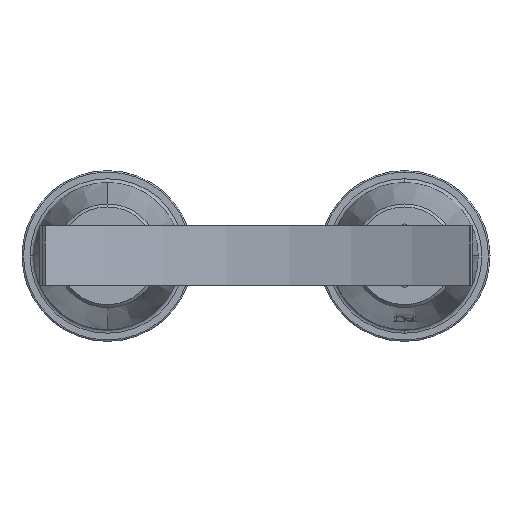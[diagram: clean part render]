
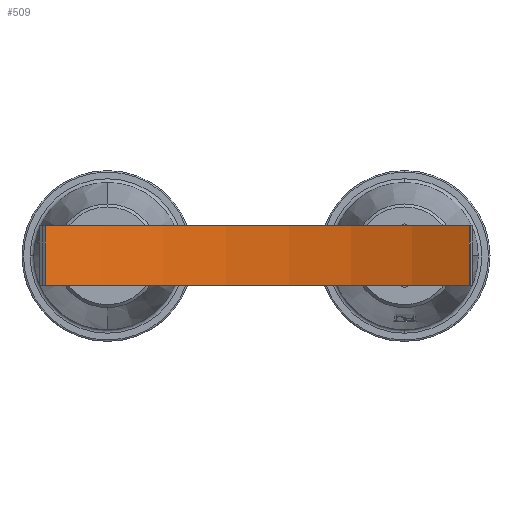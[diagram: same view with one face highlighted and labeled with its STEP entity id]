
A CAD part, top view. The second image highlights one B-rep face of the part: STEP entity #509.
In plain terms, the highlighted cylindrical face has radius 606 mm (diameter 1212 mm), a partial arc.
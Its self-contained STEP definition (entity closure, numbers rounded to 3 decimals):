
#509=ADVANCED_FACE('',(#1077),#1078,.F.);
#1077=FACE_OUTER_BOUND('',#1773,.T.);
#1078=CYLINDRICAL_SURFACE('',#1774,606.);
#1773=EDGE_LOOP('',(#2948,#2949,#2950,#2951));
#1774=AXIS2_PLACEMENT_3D('',#2952,#2953,#2954);
#2948=ORIENTED_EDGE('',*,*,#4268,.T.);
#2949=ORIENTED_EDGE('',*,*,#4258,.F.);
#2950=ORIENTED_EDGE('',*,*,#4269,.T.);
#2951=ORIENTED_EDGE('',*,*,#4265,.T.);
#2952=CARTESIAN_POINT('',(183.028,684.868,645.908));
#2953=DIRECTION('',(0.,1.0,0.));
#2954=DIRECTION('',(-1.0,0.,0.));
#4258=EDGE_CURVE('',#5111,#5106,#5113,.T.);
#4265=EDGE_CURVE('',#5123,#5121,#5124,.T.);
#4268=EDGE_CURVE('',#5121,#5106,#5127,.T.);
#4269=EDGE_CURVE('',#5111,#5123,#5128,.T.);
#5106=VERTEX_POINT('',#6817);
#5111=VERTEX_POINT('',#6824);
#5113=LINE('',#6827,#6828);
#5121=VERTEX_POINT('',#6837);
#5123=VERTEX_POINT('',#6840);
#5124=LINE('',#6841,#6842);
#5127=CIRCLE('',#6846,606.);
#5128=CIRCLE('',#6847,606.);
#6817=CARTESIAN_POINT('',(-100.998,764.868,110.59));
#6824=CARTESIAN_POINT('',(-100.998,684.868,110.59));
#6827=CARTESIAN_POINT('',(-100.998,684.868,110.59));
#6828=VECTOR('',#8961,1.);
#6837=CARTESIAN_POINT('',(470.097,764.868,112.216));
#6840=CARTESIAN_POINT('',(470.097,684.868,112.216));
#6841=CARTESIAN_POINT('',(470.097,684.868,112.216));
#6842=VECTOR('',#8970,1.);
#6846=AXIS2_PLACEMENT_3D('',#8972,#8973,#8974);
#6847=AXIS2_PLACEMENT_3D('',#8975,#8976,#8977);
#8961=DIRECTION('',(0.,1.0,0.));
#8970=DIRECTION('',(0.,1.0,0.));
#8972=CARTESIAN_POINT('',(183.028,764.868,645.908));
#8973=DIRECTION('',(0.,1.0,0.));
#8974=DIRECTION('',(-1.0,0.,0.));
#8975=CARTESIAN_POINT('',(183.028,684.868,645.908));
#8976=DIRECTION('',(0.,-1.0,0.));
#8977=DIRECTION('',(-1.0,0.,0.));
